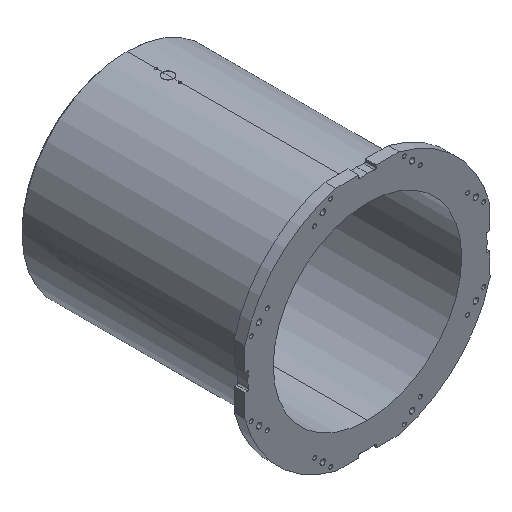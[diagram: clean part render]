
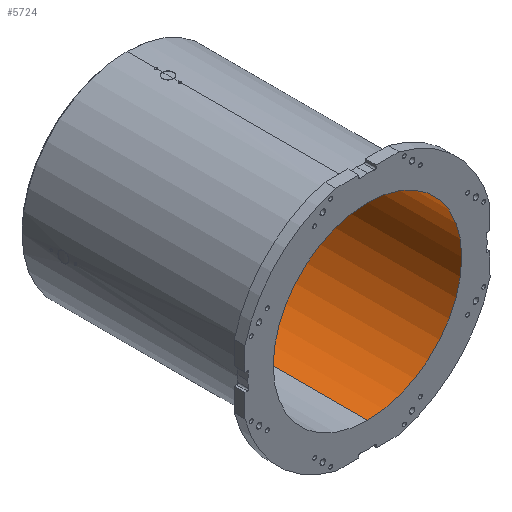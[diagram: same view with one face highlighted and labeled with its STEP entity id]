
A CAD part, isometric view. The second image highlights one B-rep face of the part: STEP entity #5724.
In plain terms, the highlighted cylindrical face has radius 350 mm (diameter 700 mm), a partial arc.
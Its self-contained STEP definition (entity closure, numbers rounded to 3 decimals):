
#75 = CARTESIAN_POINT ( 'NONE',  ( 0., 0., -350. ) ) ;
#422 = CARTESIAN_POINT ( 'NONE',  ( 0., 0., 350. ) ) ;
#1105 = CARTESIAN_POINT ( 'NONE',  ( 0., 0., -350. ) ) ;
#1441 = ORIENTED_EDGE ( 'NONE', *, *, #8782, .T. ) ;
#1632 = DIRECTION ( 'NONE',  ( 0., 0., 1. ) ) ;
#1633 = EDGE_LOOP ( 'NONE', ( #6845, #9019, #4170, #1441 ) ) ;
#2132 = LINE ( 'NONE', #1105, #7945 ) ;
#2227 = CARTESIAN_POINT ( 'NONE',  ( 0., 863., -350. ) ) ;
#3099 = VERTEX_POINT ( 'NONE', #422 ) ;
#3171 = CARTESIAN_POINT ( 'NONE',  ( 0., 0., 0. ) ) ;
#3296 = CARTESIAN_POINT ( 'NONE',  ( 0., 0., 350. ) ) ;
#3382 = CIRCLE ( 'NONE', #11900, 350. ) ;
#4170 = ORIENTED_EDGE ( 'NONE', *, *, #6849, .T. ) ;
#4949 = CYLINDRICAL_SURFACE ( 'NONE', #7083, 350. ) ;
#5005 = DIRECTION ( 'NONE',  ( 0., 1., 0. ) ) ;
#5593 = CARTESIAN_POINT ( 'NONE',  ( 0., 0., 0. ) ) ;
#5724 = ADVANCED_FACE ( 'NONE', ( #8018 ), #4949, .F. ) ;
#5928 = DIRECTION ( 'NONE',  ( 0., 1., 0. ) ) ;
#5986 = EDGE_CURVE ( 'NONE', #3099, #6096, #7329, .T. ) ;
#6074 = EDGE_CURVE ( 'NONE', #6096, #10586, #2132, .T. ) ;
#6096 = VERTEX_POINT ( 'NONE', #75 ) ;
#6519 = DIRECTION ( 'NONE',  ( 0., 1., 0. ) ) ;
#6845 = ORIENTED_EDGE ( 'NONE', *, *, #6074, .F. ) ;
#6849 = EDGE_CURVE ( 'NONE', #3099, #7170, #10255, .T. ) ;
#7083 = AXIS2_PLACEMENT_3D ( 'NONE', #3171, #5928, #12008 ) ;
#7170 = VERTEX_POINT ( 'NONE', #12738 ) ;
#7329 = CIRCLE ( 'NONE', #10466, 350. ) ;
#7580 = VECTOR ( 'NONE', #12475, 1000. ) ;
#7945 = VECTOR ( 'NONE', #11990, 1000. ) ;
#8018 = FACE_OUTER_BOUND ( 'NONE', #1633, .T. ) ;
#8782 = EDGE_CURVE ( 'NONE', #7170, #10586, #3382, .T. ) ;
#9019 = ORIENTED_EDGE ( 'NONE', *, *, #5986, .F. ) ;
#9962 = CARTESIAN_POINT ( 'NONE',  ( 0., 863., 0. ) ) ;
#10255 = LINE ( 'NONE', #3296, #7580 ) ;
#10466 = AXIS2_PLACEMENT_3D ( 'NONE', #5593, #6519, #1632 ) ;
#10586 = VERTEX_POINT ( 'NONE', #2227 ) ;
#11092 = DIRECTION ( 'NONE',  ( 0., 0., 1. ) ) ;
#11900 = AXIS2_PLACEMENT_3D ( 'NONE', #9962, #5005, #11092 ) ;
#11990 = DIRECTION ( 'NONE',  ( 0., 1., 0. ) ) ;
#12008 = DIRECTION ( 'NONE',  ( 0., 0., 1. ) ) ;
#12475 = DIRECTION ( 'NONE',  ( 0., 1., 0. ) ) ;
#12738 = CARTESIAN_POINT ( 'NONE',  ( 0., 863., 350. ) ) ;
